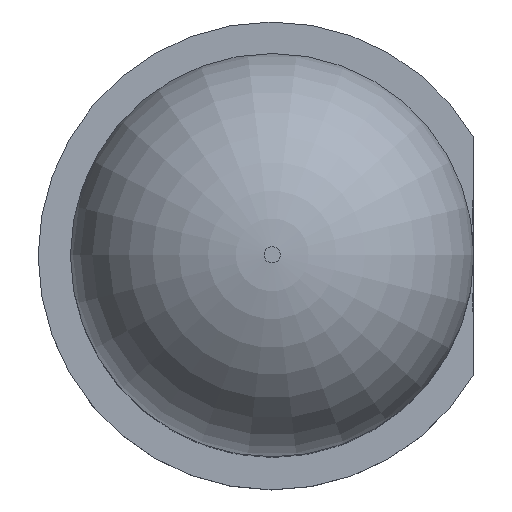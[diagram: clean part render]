
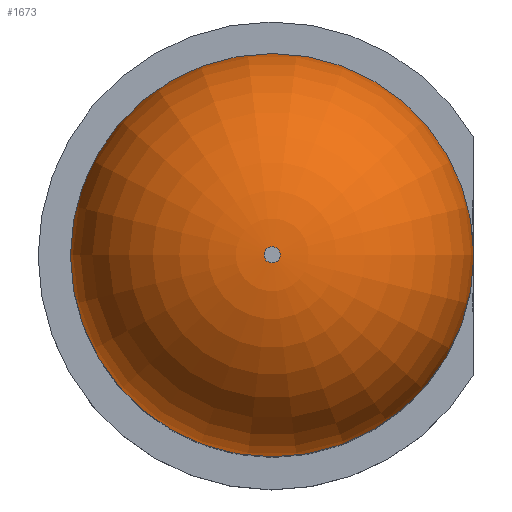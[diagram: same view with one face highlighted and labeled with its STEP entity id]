
A CAD part, top view. The second image highlights one B-rep face of the part: STEP entity #1673.
In plain terms, the highlighted toroidal (fillet/blend) face has major radius 0.1 mm and minor radius 2.4 mm.
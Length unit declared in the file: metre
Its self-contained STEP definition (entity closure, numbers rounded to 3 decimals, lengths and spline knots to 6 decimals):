
#57=DEGENERATE_TOROIDAL_SURFACE('',#1812,0.0001,0.0024,.T.);
#61=CIRCLE('',#1809,0.0025);
#62=CIRCLE('',#1811,0.0001);
#479=ORIENTED_EDGE('',*,*,#963,.T.);
#480=ORIENTED_EDGE('',*,*,#964,.F.);
#963=EDGE_CURVE('',#1207,#1207,#61,.T.);
#964=EDGE_CURVE('',#1208,#1208,#62,.T.);
#1207=VERTEX_POINT('',#2332);
#1208=VERTEX_POINT('',#2335);
#1405=EDGE_LOOP('',(#479));
#1406=EDGE_LOOP('',(#480));
#1509=FACE_BOUND('',#1405,.T.);
#1510=FACE_BOUND('',#1406,.T.);
#1673=ADVANCED_FACE('',(#1509,#1510),#57,.T.);
#1809=AXIS2_PLACEMENT_3D('',#2331,#1913,#1914);
#1811=AXIS2_PLACEMENT_3D('',#2334,#1917,#1918);
#1812=AXIS2_PLACEMENT_3D('',#2336,#1919,#1920);
#1913=DIRECTION('',(0.,0.,1.));
#1914=DIRECTION('',(1.,0.,0.));
#1917=DIRECTION('',(0.,0.,1.));
#1918=DIRECTION('',(1.,0.,0.));
#1919=DIRECTION('',(0.,0.,1.));
#1920=DIRECTION('',(1.,0.,0.));
#2331=CARTESIAN_POINT('',(0.,0.,0.0062));
#2332=CARTESIAN_POINT('',(0.0025,0.,0.0062));
#2334=CARTESIAN_POINT('',(0.,0.,0.0086));
#2335=CARTESIAN_POINT('',(0.0001,0.,0.0086));
#2336=CARTESIAN_POINT('',(0.,0.,0.0062));
